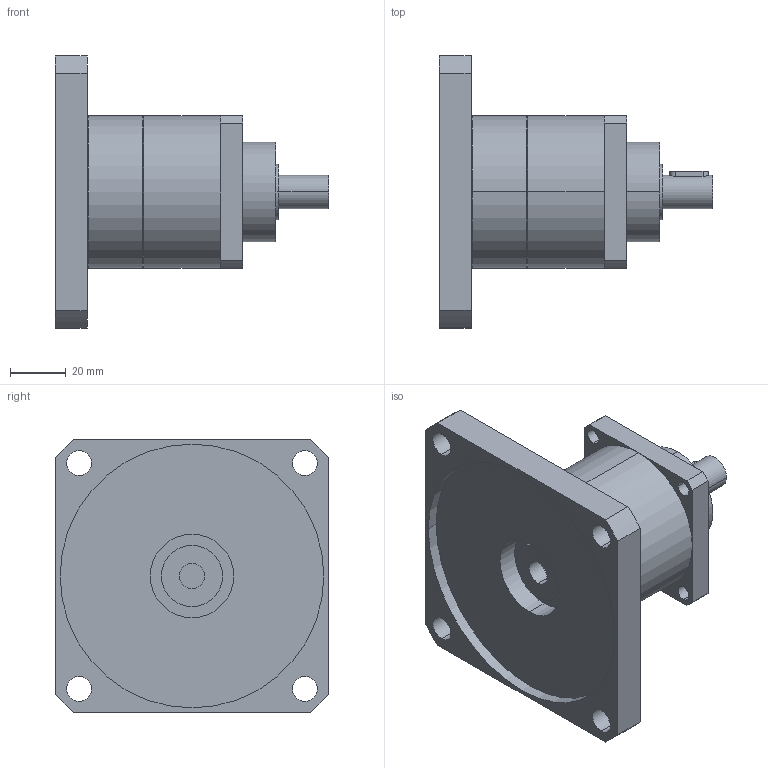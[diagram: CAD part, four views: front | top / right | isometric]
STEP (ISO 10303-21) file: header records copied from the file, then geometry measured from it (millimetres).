
FILE_DESCRIPTION(('CoCreate Modeling STEP Export'),'2;1');
FILE_NAME('GPT55_ig-3-4-5-7-10_12_B5A_9_P08.stp','2014-08-25T14:35:43',(''),(''),'CoCreate Modeling STEP processor for AP214 (Solid Model)','CoCreate Modeling 16.00C 25-Feb-2009 (C) Parametric Technology GmbH','');
FILE_SCHEMA(('AUTOMOTIVE_DESIGN { 1 0 10303 214 1 1 1 1 }'));
Length unit declared in the file: millimetre
Products named in the file (2): GPT55_ig-3-4-5-7-10_12_B5A_9_P08
Assembly tree (1 placements, depth 2):
  GPT55_ig-3-4-5-7-10_12_B5A_9_P08
    GPT55_ig-3-4-5-7-10_12_B5A_9_P08
Bounding box: 98.5 x 98 x 98 mm (x, y, z)
Volume: 224544.4 mm3; surface area: 41006.5 mm2
Topology: 1 solids, 1 shells, 77 faces, 197 edges, 132 vertices
Faces by surface type: cylinder 46, plane 27, cone 4
Entity records: 2480 total; most frequent: CARTESIAN_POINT 703, ORIENTED_EDGE 394, DIRECTION 318, EDGE_CURVE 197, VERTEX_POINT 132, AXIS2_PLACEMENT_3D 117, EDGE_LOOP 103, VECTOR 84
